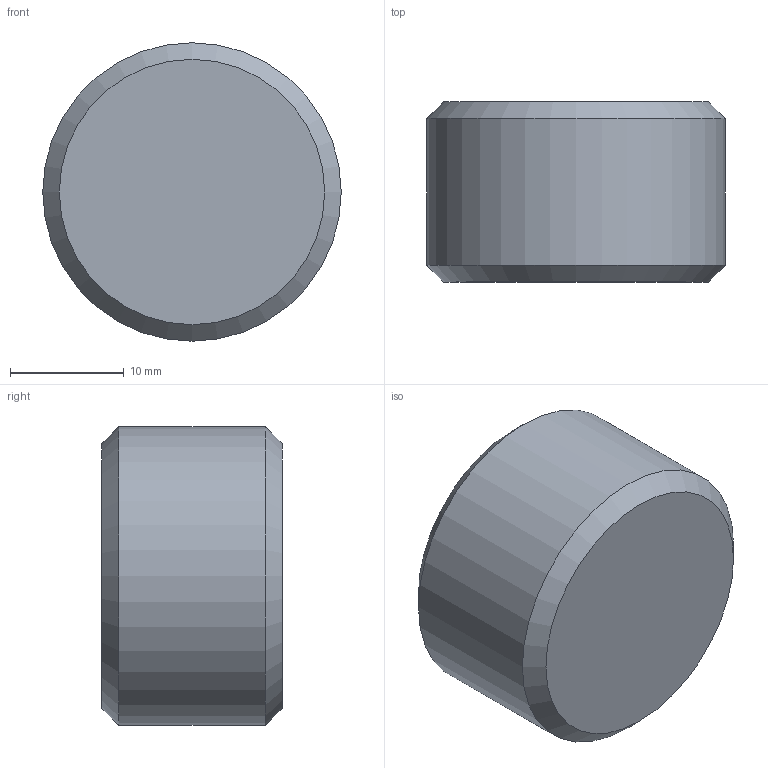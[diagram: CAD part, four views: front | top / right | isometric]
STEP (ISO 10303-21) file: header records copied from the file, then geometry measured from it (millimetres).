
FILE_DESCRIPTION(/* description */ (''),/* implementation_level */ '2;1');
FILE_NAME(/* name */ 'C:/Users/drich/Desktop/cad/Plugs/NPT Pipe Plugs/Stainless/BD-34 v1.step',/* time_stamp */ '2020-01-10T11:15:58-06:00',/* author */ (''),/* organization */ (''),/* preprocessor_version */ 'ST-DEVELOPER v18',/* originating_system */ 'Autodesk Translation Framework v8.12.0.6',/* authorisation */ '');
FILE_SCHEMA (('AUTOMOTIVE_DESIGN { 1 0 10303 214 3 1 1 }'));
Length unit declared in the file: inch
Products named in the file (1): BD-34
Bounding box: 26.3 x 15.88 x 26.3 mm (x, y, z)
Volume: 6892.3 mm3; surface area: 2656.2 mm2
Topology: 1 solids, 1 shells, 13 faces, 35 edges, 25 vertices
Faces by surface type: plane 9, cone 3, cylinder 1
Full cylindrical faces by diameter (mm): 26.299 x1
Entity records: 446 total; most frequent: CARTESIAN_POINT 98, ORIENTED_EDGE 70, DIRECTION 58, EDGE_CURVE 35, VERTEX_POINT 25, AXIS2_PLACEMENT_3D 21, LINE 16, VECTOR 16
